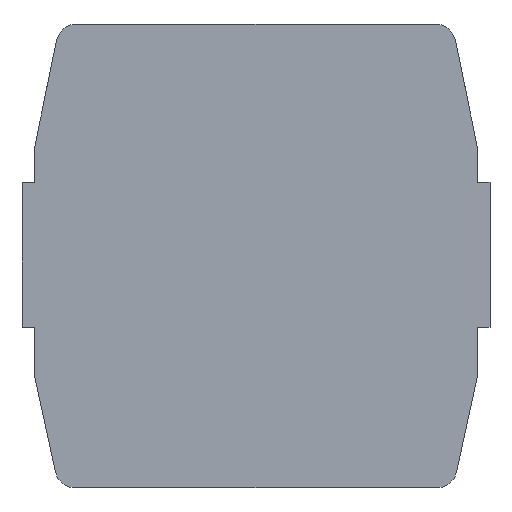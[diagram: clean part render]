
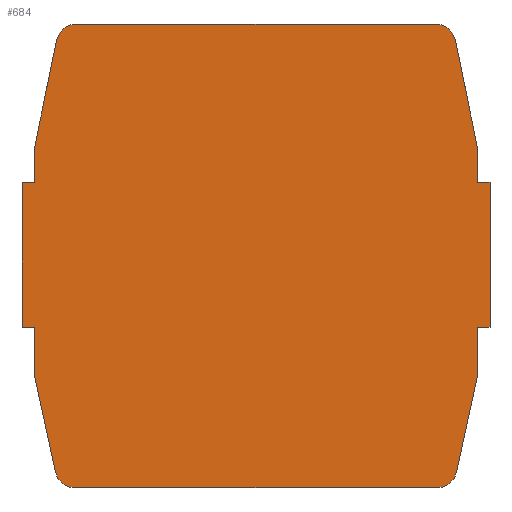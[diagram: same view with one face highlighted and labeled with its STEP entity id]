
A CAD part, top view. The second image highlights one B-rep face of the part: STEP entity #684.
In plain terms, the highlighted planar face has unit normal (0, 0, 1).
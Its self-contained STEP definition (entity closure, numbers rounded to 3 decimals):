
#1=DIRECTION('',(0.,-1.,0.));
#2=VECTOR('',#1,1.656);
#3=CARTESIAN_POINT('',(1844.901,881.28,0.));
#4=LINE('',#3,#2);
#5=DIRECTION('',(1.,0.,0.));
#6=VECTOR('',#5,0.6);
#7=CARTESIAN_POINT('',(1844.901,879.624,0.));
#8=LINE('',#7,#6);
#9=DIRECTION('',(0.,-1.,0.));
#10=VECTOR('',#9,7.);
#11=CARTESIAN_POINT('',(1845.501,879.624,0.));
#12=LINE('',#11,#10);
#13=DIRECTION('',(-1.,0.,0.));
#14=VECTOR('',#13,0.6);
#15=CARTESIAN_POINT('',(1845.501,872.624,0.));
#16=LINE('',#15,#14);
#17=DIRECTION('',(0.,-1.,0.));
#18=VECTOR('',#17,2.326);
#19=CARTESIAN_POINT('',(1844.901,872.624,0.));
#20=LINE('',#19,#18);
#21=DIRECTION('',(-0.213,-0.977,0.));
#22=VECTOR('',#21,4.745);
#23=CARTESIAN_POINT('',(1844.901,870.298,0.));
#24=LINE('',#23,#22);
#25=CARTESIAN_POINT('',(1842.914,865.874,0.));
#26=DIRECTION('',(0.,0.,-1.));
#27=DIRECTION('',(0.977,-0.213,0.));
#28=AXIS2_PLACEMENT_3D('',#25,#26,#27);
#30=DIRECTION('',(-1.,0.,0.));
#31=VECTOR('',#30,17.428);
#32=CARTESIAN_POINT('',(1842.914,864.874,0.));
#33=LINE('',#32,#31);
#34=CARTESIAN_POINT('',(1825.487,865.874,0.));
#35=DIRECTION('',(0.,0.,-1.));
#36=DIRECTION('',(0.,-1.,0.));
#37=AXIS2_PLACEMENT_3D('',#34,#35,#36);
#39=DIRECTION('',(-0.213,0.977,0.));
#40=VECTOR('',#39,4.745);
#41=CARTESIAN_POINT('',(1824.51,865.661,0.));
#42=LINE('',#41,#40);
#43=DIRECTION('',(0.,1.,0.));
#44=VECTOR('',#43,2.326);
#45=CARTESIAN_POINT('',(1823.501,870.298,0.));
#46=LINE('',#45,#44);
#47=DIRECTION('',(-1.,0.,0.));
#48=VECTOR('',#47,0.6);
#49=CARTESIAN_POINT('',(1823.501,872.624,0.));
#50=LINE('',#49,#48);
#51=DIRECTION('',(0.,1.,0.));
#52=VECTOR('',#51,7.);
#53=CARTESIAN_POINT('',(1822.901,872.624,0.));
#54=LINE('',#53,#52);
#55=DIRECTION('',(1.,0.,0.));
#56=VECTOR('',#55,0.6);
#57=CARTESIAN_POINT('',(1822.901,879.624,0.));
#58=LINE('',#57,#56);
#59=DIRECTION('',(0.,1.,0.));
#60=VECTOR('',#59,1.656);
#61=CARTESIAN_POINT('',(1823.501,879.624,0.));
#62=LINE('',#61,#60);
#63=DIRECTION('',(0.201,0.98,0.));
#64=VECTOR('',#63,5.303);
#65=CARTESIAN_POINT('',(1823.501,881.28,0.));
#66=LINE('',#65,#64);
#67=CARTESIAN_POINT('',(1825.546,886.274,0.));
#68=DIRECTION('',(0.,0.,-1.));
#69=DIRECTION('',(-0.98,0.201,0.));
#70=AXIS2_PLACEMENT_3D('',#67,#68,#69);
#72=DIRECTION('',(1.,0.,0.));
#73=VECTOR('',#72,17.31);
#74=CARTESIAN_POINT('',(1825.546,887.274,0.));
#75=LINE('',#74,#73);
#76=CARTESIAN_POINT('',(1842.855,886.274,0.));
#77=DIRECTION('',(0.,0.,-1.));
#78=DIRECTION('',(0.,1.,0.));
#79=AXIS2_PLACEMENT_3D('',#76,#77,#78);
#81=DIRECTION('',(0.201,-0.98,0.));
#82=VECTOR('',#81,5.303);
#83=CARTESIAN_POINT('',(1843.835,886.475,0.));
#84=LINE('',#83,#82);
#485=CARTESIAN_POINT('',(1824.566,886.475,0.));
#486=CARTESIAN_POINT('',(1825.546,887.274,0.));
#487=VERTEX_POINT('',#485);
#488=VERTEX_POINT('',#486);
#489=CARTESIAN_POINT('',(1842.855,887.274,0.));
#490=VERTEX_POINT('',#489);
#491=CARTESIAN_POINT('',(1843.835,886.475,0.));
#492=VERTEX_POINT('',#491);
#493=CARTESIAN_POINT('',(1844.901,881.28,0.));
#494=VERTEX_POINT('',#493);
#495=CARTESIAN_POINT('',(1844.901,870.298,0.));
#496=CARTESIAN_POINT('',(1843.892,865.661,0.));
#497=VERTEX_POINT('',#495);
#498=VERTEX_POINT('',#496);
#499=CARTESIAN_POINT('',(1842.914,864.874,0.));
#500=VERTEX_POINT('',#499);
#501=CARTESIAN_POINT('',(1825.487,864.874,0.));
#502=VERTEX_POINT('',#501);
#503=CARTESIAN_POINT('',(1824.51,865.661,0.));
#504=VERTEX_POINT('',#503);
#505=CARTESIAN_POINT('',(1823.501,870.298,0.));
#506=VERTEX_POINT('',#505);
#507=CARTESIAN_POINT('',(1823.501,881.28,0.));
#508=VERTEX_POINT('',#507);
#549=CARTESIAN_POINT('',(1822.901,872.624,0.));
#550=CARTESIAN_POINT('',(1822.901,879.624,0.));
#551=VERTEX_POINT('',#549);
#552=VERTEX_POINT('',#550);
#553=CARTESIAN_POINT('',(1845.501,879.624,0.));
#554=CARTESIAN_POINT('',(1845.501,872.624,0.));
#555=VERTEX_POINT('',#553);
#556=VERTEX_POINT('',#554);
#565=CARTESIAN_POINT('',(1844.901,879.624,0.));
#566=VERTEX_POINT('',#565);
#567=CARTESIAN_POINT('',(1844.901,872.624,0.));
#568=VERTEX_POINT('',#567);
#569=CARTESIAN_POINT('',(1823.501,872.624,0.));
#570=VERTEX_POINT('',#569);
#571=CARTESIAN_POINT('',(1823.501,879.624,0.));
#572=VERTEX_POINT('',#571);
#637=CARTESIAN_POINT('',(1834.201,887.274,0.));
#638=DIRECTION('',(0.,0.,-1.));
#639=DIRECTION('',(-1.,0.,0.));
#640=AXIS2_PLACEMENT_3D('',#637,#638,#639);
#641=PLANE('',#640);
#643=ORIENTED_EDGE('',*,*,#642,.T.);
#645=ORIENTED_EDGE('',*,*,#644,.T.);
#647=ORIENTED_EDGE('',*,*,#646,.T.);
#649=ORIENTED_EDGE('',*,*,#648,.T.);
#651=ORIENTED_EDGE('',*,*,#650,.T.);
#653=ORIENTED_EDGE('',*,*,#652,.T.);
#655=ORIENTED_EDGE('',*,*,#654,.T.);
#657=ORIENTED_EDGE('',*,*,#656,.T.);
#659=ORIENTED_EDGE('',*,*,#658,.T.);
#661=ORIENTED_EDGE('',*,*,#660,.T.);
#663=ORIENTED_EDGE('',*,*,#662,.T.);
#665=ORIENTED_EDGE('',*,*,#664,.T.);
#667=ORIENTED_EDGE('',*,*,#666,.T.);
#669=ORIENTED_EDGE('',*,*,#668,.T.);
#671=ORIENTED_EDGE('',*,*,#670,.T.);
#673=ORIENTED_EDGE('',*,*,#672,.T.);
#675=ORIENTED_EDGE('',*,*,#674,.T.);
#677=ORIENTED_EDGE('',*,*,#676,.T.);
#679=ORIENTED_EDGE('',*,*,#678,.T.);
#681=ORIENTED_EDGE('',*,*,#680,.T.);
#682=EDGE_LOOP('',(#643,#645,#647,#649,#651,#653,#655,#657,#659,#661,#663,#665,
#667,#669,#671,#673,#675,#677,#679,#681));
#683=FACE_OUTER_BOUND('',#682,.F.);
#684=ADVANCED_FACE('',(#683),#641,.F.);
#29=CIRCLE('',#28,1.);
#38=CIRCLE('',#37,1.);
#71=CIRCLE('',#70,1.);
#80=CIRCLE('',#79,1.);
#642=EDGE_CURVE('',#494,#566,#4,.T.);
#644=EDGE_CURVE('',#566,#555,#8,.T.);
#646=EDGE_CURVE('',#555,#556,#12,.T.);
#648=EDGE_CURVE('',#556,#568,#16,.T.);
#650=EDGE_CURVE('',#568,#497,#20,.T.);
#652=EDGE_CURVE('',#497,#498,#24,.T.);
#654=EDGE_CURVE('',#498,#500,#29,.T.);
#656=EDGE_CURVE('',#500,#502,#33,.T.);
#658=EDGE_CURVE('',#502,#504,#38,.T.);
#660=EDGE_CURVE('',#504,#506,#42,.T.);
#662=EDGE_CURVE('',#506,#570,#46,.T.);
#664=EDGE_CURVE('',#570,#551,#50,.T.);
#666=EDGE_CURVE('',#551,#552,#54,.T.);
#668=EDGE_CURVE('',#552,#572,#58,.T.);
#670=EDGE_CURVE('',#572,#508,#62,.T.);
#672=EDGE_CURVE('',#508,#487,#66,.T.);
#674=EDGE_CURVE('',#487,#488,#71,.T.);
#676=EDGE_CURVE('',#488,#490,#75,.T.);
#678=EDGE_CURVE('',#490,#492,#80,.T.);
#680=EDGE_CURVE('',#492,#494,#84,.T.);
